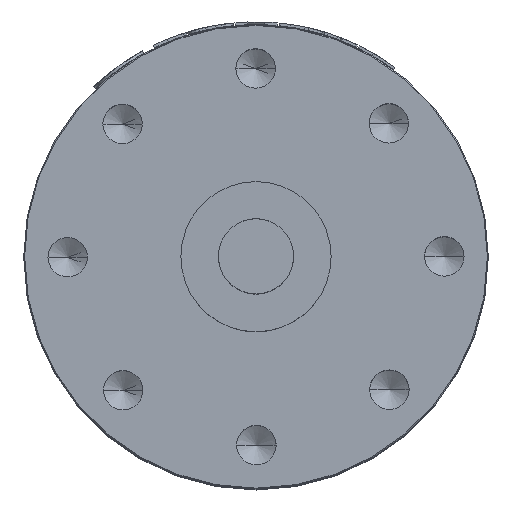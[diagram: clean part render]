
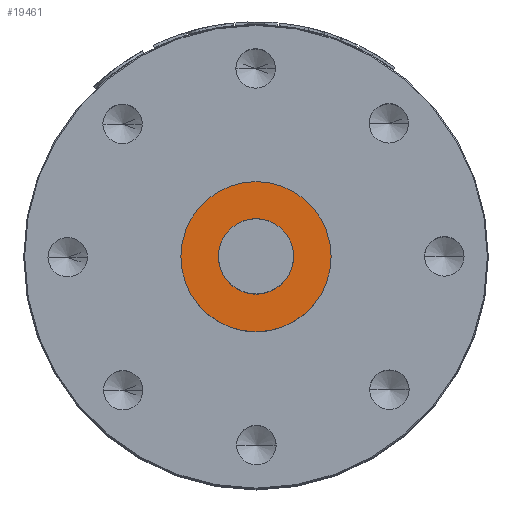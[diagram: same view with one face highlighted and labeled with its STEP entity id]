
A CAD part, top view. The second image highlights one B-rep face of the part: STEP entity #19461.
In plain terms, the highlighted planar face has unit normal (0, 0, 1).
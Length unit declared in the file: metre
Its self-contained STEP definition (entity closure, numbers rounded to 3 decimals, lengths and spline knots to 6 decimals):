
#82 = EDGE_CURVE ( 'NONE', #11368, #9214, #10822, .T. ) ;
#179 = CARTESIAN_POINT ( 'NONE',  ( -0.008096, -0.008096, 0.0055 ) ) ;
#429 = CARTESIAN_POINT ( 'NONE',  ( 0.008, 0., 0.0055 ) ) ;
#1143 = EDGE_CURVE ( 'NONE', #3495, #9040, #17103, .T. ) ;
#1319 = AXIS2_PLACEMENT_3D ( 'NONE', #15835, #6689, #17288 ) ;
#1871 = AXIS2_PLACEMENT_3D ( 'NONE', #9773, #9777, #9798 ) ;
#2018 = CARTESIAN_POINT ( 'NONE',  ( 0., -0.004, 0.0055 ) ) ;
#2620 = EDGE_LOOP ( 'NONE', ( #4512, #10332 ) ) ;
#2787 = DIRECTION ( 'NONE',  ( 0., 0., -1. ) ) ;
#3495 = VERTEX_POINT ( 'NONE', #2018 ) ;
#4108 = ORIENTED_EDGE ( 'NONE', *, *, #82, .T. ) ;
#4512 = ORIENTED_EDGE ( 'NONE', *, *, #1143, .T. ) ;
#4817 = PLANE ( 'NONE',  #18765 ) ;
#4889 = ORIENTED_EDGE ( 'NONE', *, *, #18516, .T. ) ;
#6689 = DIRECTION ( 'NONE',  ( 0., 0., 1. ) ) ;
#7846 = DIRECTION ( 'NONE',  ( 1., 0., 0. ) ) ;
#8373 = FACE_OUTER_BOUND ( 'NONE', #9127, .T. ) ;
#9040 = VERTEX_POINT ( 'NONE', #11468 ) ;
#9127 = EDGE_LOOP ( 'NONE', ( #4889, #4108 ) ) ;
#9214 = VERTEX_POINT ( 'NONE', #15692 ) ;
#9773 = CARTESIAN_POINT ( 'NONE',  ( 0., 0., 0.0055 ) ) ;
#9777 = DIRECTION ( 'NONE',  ( 0., 0., 1. ) ) ;
#9798 = DIRECTION ( 'NONE',  ( -1., 0., 0. ) ) ;
#10332 = ORIENTED_EDGE ( 'NONE', *, *, #17831, .T. ) ;
#10822 = CIRCLE ( 'NONE', #1871, 0.008 ) ;
#11140 = CIRCLE ( 'NONE', #15400, 0.004 ) ;
#11368 = VERTEX_POINT ( 'NONE', #429 ) ;
#11468 = CARTESIAN_POINT ( 'NONE',  ( 0., 0.004, 0.0055 ) ) ;
#11968 = CARTESIAN_POINT ( 'NONE',  ( 0., 0., 0.0055 ) ) ;
#13514 = DIRECTION ( 'NONE',  ( 0., -1., 0. ) ) ;
#15400 = AXIS2_PLACEMENT_3D ( 'NONE', #11968, #2787, #13514 ) ;
#15692 = CARTESIAN_POINT ( 'NONE',  ( -0.008, 0., 0.0055 ) ) ;
#15835 = CARTESIAN_POINT ( 'NONE',  ( 0., 0., 0.0055 ) ) ;
#16016 = FACE_BOUND ( 'NONE', #2620, .T. ) ;
#16963 = DIRECTION ( 'NONE',  ( 0., 0., 1. ) ) ;
#17103 = CIRCLE ( 'NONE', #18101, 0.004 ) ;
#17288 = DIRECTION ( 'NONE',  ( -1., 0., 0. ) ) ;
#17831 = EDGE_CURVE ( 'NONE', #9040, #3495, #11140, .T. ) ;
#17859 = CIRCLE ( 'NONE', #1319, 0.008 ) ;
#18098 = CARTESIAN_POINT ( 'NONE',  ( 0., 0., 0.0055 ) ) ;
#18101 = AXIS2_PLACEMENT_3D ( 'NONE', #18098, #18116, #18137 ) ;
#18116 = DIRECTION ( 'NONE',  ( 0., 0., -1. ) ) ;
#18137 = DIRECTION ( 'NONE',  ( 0., -1., 0. ) ) ;
#18516 = EDGE_CURVE ( 'NONE', #9214, #11368, #17859, .T. ) ;
#18765 = AXIS2_PLACEMENT_3D ( 'NONE', #179, #16963, #7846 ) ;
#19461 = ADVANCED_FACE ( 'NONE', ( #16016, #8373 ), #4817, .T. ) ;
